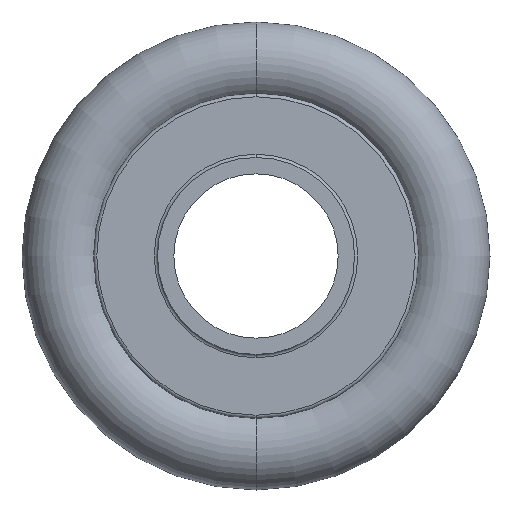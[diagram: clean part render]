
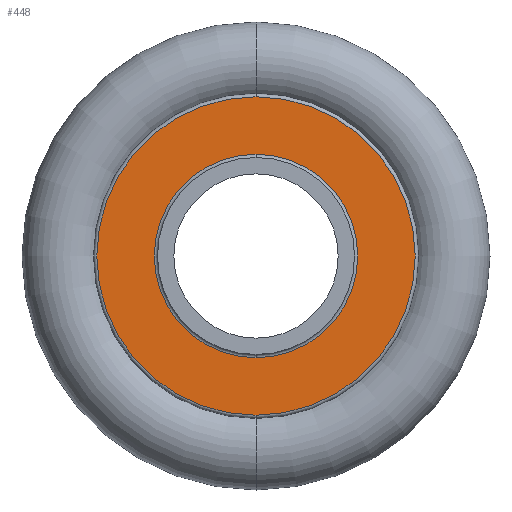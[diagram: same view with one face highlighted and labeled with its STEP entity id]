
A CAD part, front view. The second image highlights one B-rep face of the part: STEP entity #448.
In plain terms, the highlighted planar face has unit normal (0, -1, 0).
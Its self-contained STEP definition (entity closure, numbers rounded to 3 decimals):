
#25 = AXIS2_PLACEMENT_3D ( 'NONE', #325, #683, #513 ) ;
#32 = ORIENTED_EDGE ( 'NONE', *, *, #378, .T. ) ;
#57 = VERTEX_POINT ( 'NONE', #264 ) ;
#68 = CIRCLE ( 'NONE', #25, 9.694 ) ;
#102 = CARTESIAN_POINT ( 'NONE',  ( 0., -1.95, 0. ) ) ;
#119 = CARTESIAN_POINT ( 'NONE',  ( 0., -1.95, 0. ) ) ;
#123 = DIRECTION ( 'NONE',  ( 0., 1., 0. ) ) ;
#127 = DIRECTION ( 'NONE',  ( 0., 0., 1. ) ) ;
#177 = CARTESIAN_POINT ( 'NONE',  ( 0., -1.95, 6.2 ) ) ;
#193 = DIRECTION ( 'NONE',  ( 0., 0., 1. ) ) ;
#252 = DIRECTION ( 'NONE',  ( 0., 1., 0. ) ) ;
#264 = CARTESIAN_POINT ( 'NONE',  ( 0., -1.95, -9.694 ) ) ;
#281 = AXIS2_PLACEMENT_3D ( 'NONE', #812, #123, #193 ) ;
#293 = DIRECTION ( 'NONE',  ( 0., -1., 0. ) ) ;
#325 = CARTESIAN_POINT ( 'NONE',  ( 0., -1.95, 0. ) ) ;
#330 = EDGE_LOOP ( 'NONE', ( #32, #677 ) ) ;
#338 = VERTEX_POINT ( 'NONE', #177 ) ;
#355 = DIRECTION ( 'NONE',  ( 0., 1., 0. ) ) ;
#378 = EDGE_CURVE ( 'NONE', #57, #788, #68, .T. ) ;
#420 = CARTESIAN_POINT ( 'NONE',  ( 0., -1.95, 0. ) ) ;
#448 = ADVANCED_FACE ( 'NONE', ( #667, #656 ), #820, .F. ) ;
#458 = EDGE_CURVE ( 'NONE', #612, #338, #488, .T. ) ;
#465 = EDGE_LOOP ( 'NONE', ( #543, #567 ) ) ;
#488 = CIRCLE ( 'NONE', #617, 6.2 ) ;
#513 = DIRECTION ( 'NONE',  ( 0., 0., 1. ) ) ;
#535 = DIRECTION ( 'NONE',  ( 0., 0., 1. ) ) ;
#543 = ORIENTED_EDGE ( 'NONE', *, *, #665, .T. ) ;
#560 = CIRCLE ( 'NONE', #740, 6.2 ) ;
#567 = ORIENTED_EDGE ( 'NONE', *, *, #458, .T. ) ;
#601 = CARTESIAN_POINT ( 'NONE',  ( 0., -1.95, 9.694 ) ) ;
#612 = VERTEX_POINT ( 'NONE', #696 ) ;
#617 = AXIS2_PLACEMENT_3D ( 'NONE', #119, #252, #127 ) ;
#656 = FACE_BOUND ( 'NONE', #465, .T. ) ;
#665 = EDGE_CURVE ( 'NONE', #338, #612, #560, .T. ) ;
#667 = FACE_OUTER_BOUND ( 'NONE', #330, .T. ) ;
#677 = ORIENTED_EDGE ( 'NONE', *, *, #759, .T. ) ;
#683 = DIRECTION ( 'NONE',  ( 0., -1., 0. ) ) ;
#696 = CARTESIAN_POINT ( 'NONE',  ( 0., -1.95, -6.2 ) ) ;
#714 = CIRCLE ( 'NONE', #787, 9.694 ) ;
#729 = DIRECTION ( 'NONE',  ( 0., 0., 1. ) ) ;
#740 = AXIS2_PLACEMENT_3D ( 'NONE', #420, #355, #535 ) ;
#759 = EDGE_CURVE ( 'NONE', #788, #57, #714, .T. ) ;
#787 = AXIS2_PLACEMENT_3D ( 'NONE', #102, #293, #729 ) ;
#788 = VERTEX_POINT ( 'NONE', #601 ) ;
#812 = CARTESIAN_POINT ( 'NONE',  ( -6., -1.95, 0. ) ) ;
#820 = PLANE ( 'NONE',  #281 ) ;
